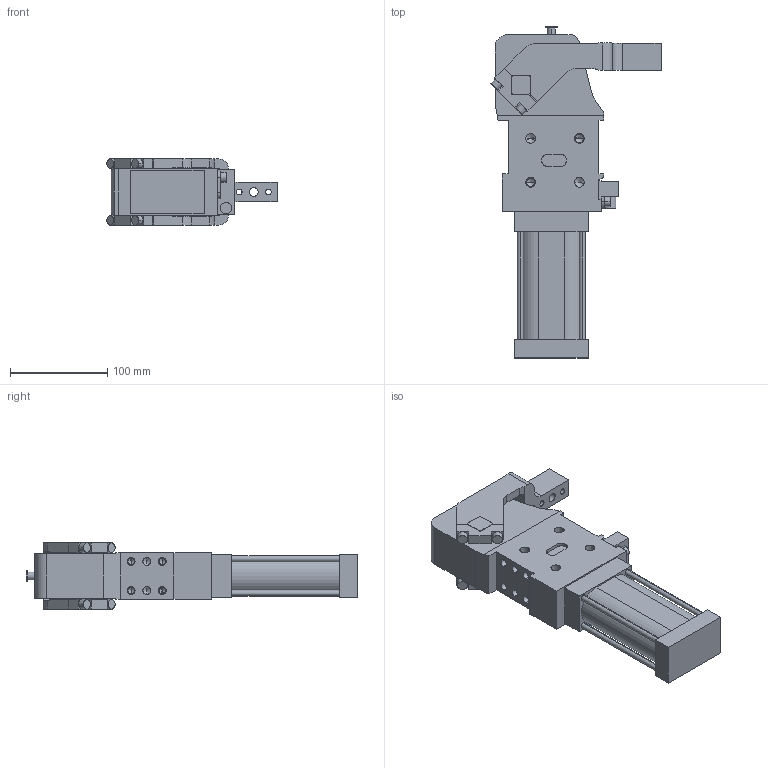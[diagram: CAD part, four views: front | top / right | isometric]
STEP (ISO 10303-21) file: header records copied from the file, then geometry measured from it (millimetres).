
FILE_DESCRIPTION (( 'STEP AP214' ), '1' );
FILE_NAME ('cpl50v1csi1g_16.STEP', '2023-01-26T08:45:54', ( '' ), ( '' ), 'SwSTEP 2.0', 'SolidWorks 2022', '' );
FILE_SCHEMA (( 'AUTOMOTIVE_DESIGN' ));
Length unit declared in the file: millimetre
Products named in the file (4): blocchetto_VEP_0; meccanica_cpl_50; leva_cx_offset_15_cpl50; cpl50v1csi1g_16
Assembly tree (3 placements, depth 2):
  cpl50v1csi1g_16
    meccanica_cpl_50
    blocchetto_VEP_0
    leva_cx_offset_15_cpl50
Bounding box: 174.97 x 341 x 69 mm (x, y, z)
Volume: 1377699.2 mm3; surface area: 162299.6 mm2
Topology: 3 solids, 3 shells, 399 faces, 1029 edges, 639 vertices
Faces by surface type: plane 193, cylinder 156, cone 50
Entity records: 13415 total; most frequent: DIRECTION 2119, CARTESIAN_POINT 2097, ORIENTED_EDGE 1966, EDGE_CURVE 983, AXIS2_PLACEMENT_3D 735, VECTOR 649, LINE 649, VERTEX_POINT 639
